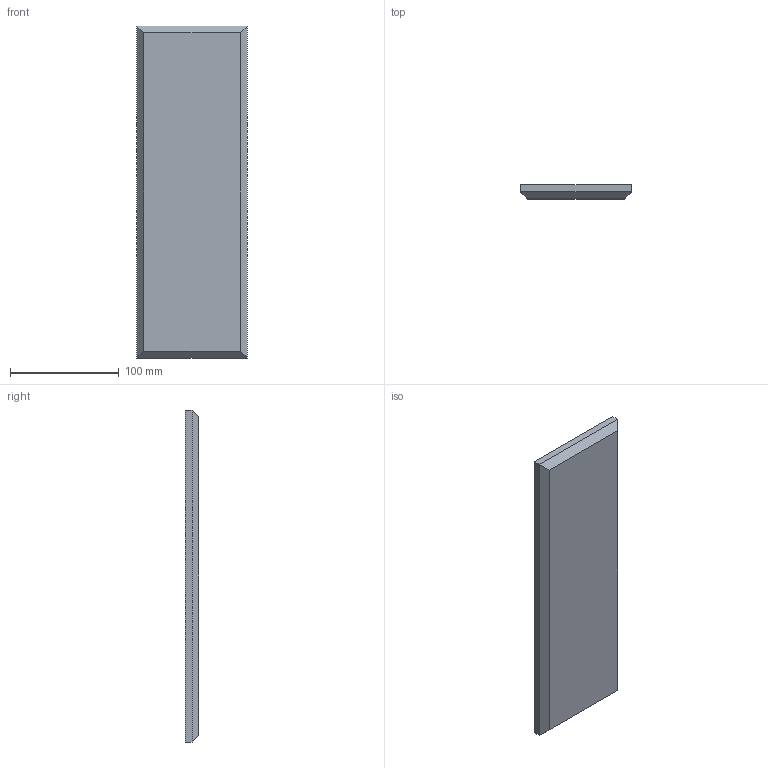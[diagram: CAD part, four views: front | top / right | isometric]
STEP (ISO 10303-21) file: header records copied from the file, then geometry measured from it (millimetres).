
FILE_DESCRIPTION(/* description */ (''),/* implementation_level */ '2;1');
FILE_NAME(/* name */ 'PET PLANQ_Beveled_4x12',/* time_stamp */ '2024-10-31T13:55:31-05:00',/* author */ (''),/* organization */ (''),/* preprocessor_version */ 'ST-DEVELOPER v19.2',/* originating_system */ 'Rhino 8.4',/* authorisation */ '');
FILE_SCHEMA (('CONFIG_CONTROL_DESIGN'));
Length unit declared in the file: inch
Products named in the file (1): Document
Bounding box: 101.6 x 12.7 x 304.8 mm (x, y, z)
Volume: 377243.9 mm3; surface area: 69167.7 mm2
Topology: 1 solids, 1 shells, 10 faces, 20 edges, 12 vertices
Faces by surface type: plane 10
Entity records: 310 total; most frequent: CARTESIAN_POINT 64, ORIENTED_EDGE 40, EDGE_CURVE 20, B_SPLINE_CURVE_WITH_KNOTS 20, DIRECTION 14, VERTEX_POINT 12, AXIS2_PLACEMENT_3D 12, ADVANCED_FACE 10
